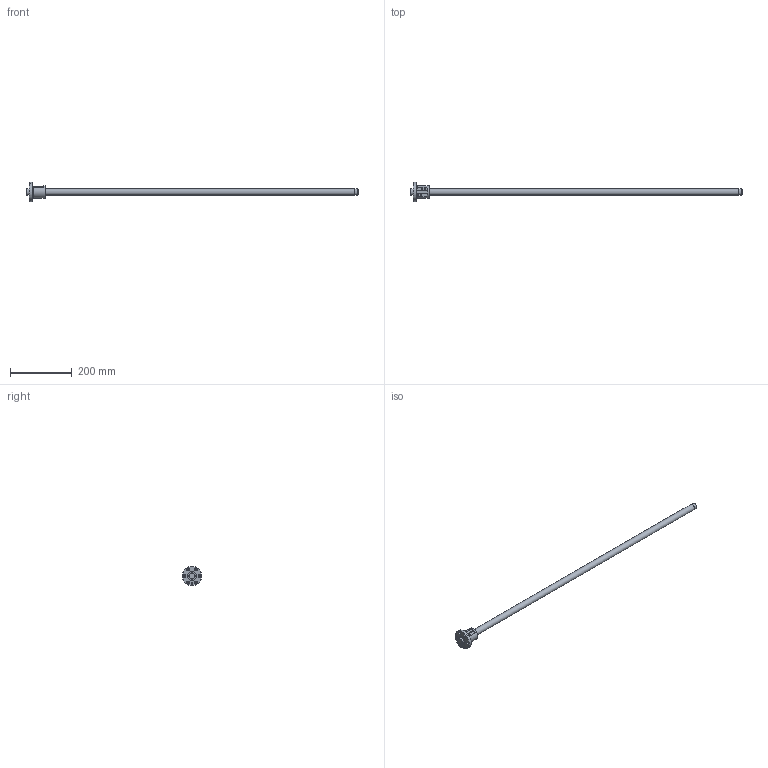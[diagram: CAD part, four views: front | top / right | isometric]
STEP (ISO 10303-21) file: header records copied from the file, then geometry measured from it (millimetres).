
FILE_DESCRIPTION( ( 'STEP AP203' ), ' ' );
FILE_NAME( 'p:/temp/worker_49/1856_1980/app_78_12018011811172012643187818fa3fd_000000_00_00_000000/format_0/BIF2004-5RRG0+1073LC2_10000.stp', '2018-01-18T10:17:21', ( '' ), ( '' ), ' ', 'PARTsolutions', ' ' );
FILE_SCHEMA( ( 'CONFIG_CONTROL_DESIGN' ) );
Length unit declared in the file: millimetre
Products named in the file (3): BIF2004-5RRG0+1073LC2_10000; _BIF 2004-5RR1000500 Shaft; _BIF 2004-5RR Nut
Assembly tree (2 placements, depth 2):
  BIF2004-5RRG0+1073LC2_10000
    _BIF 2004-5RR1000500 Shaft
    _BIF 2004-5RR Nut
Bounding box: 1073 x 63 x 63 mm (x, y, z)
Volume: 397965.7 mm3; surface area: 86792.5 mm2
Topology: 2 solids, 2 shells, 82 faces, 178 edges, 113 vertices
Faces by surface type: cylinder 39, plane 31, cone 8, torus 4
Full cylindrical faces by diameter (mm): 3.35 x2, 3.6 x4, 4.917 x1, 5.5 x6, 9.5 x6, 19.5 x2, 20 x4, 28.8 x2, 40 x1, 63 x1
Entity records: 2408 total; most frequent: CARTESIAN_POINT 617, DIRECTION 376, ORIENTED_EDGE 262, AXIS2_PLACEMENT_3D 172, EDGE_LOOP 156, EDGE_CURVE 131, FACE_OUTER_BOUND 111, VERTEX_POINT 103
